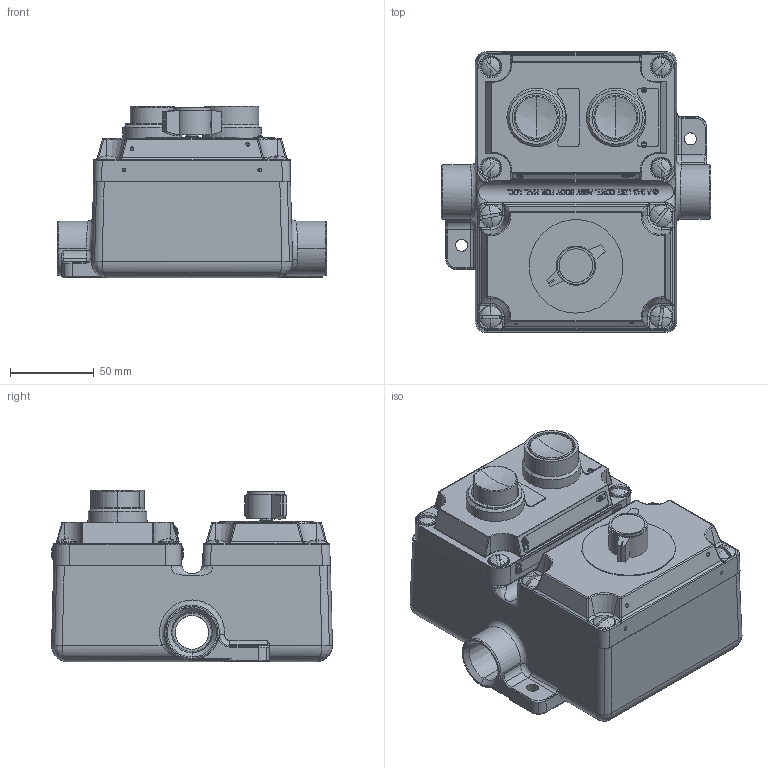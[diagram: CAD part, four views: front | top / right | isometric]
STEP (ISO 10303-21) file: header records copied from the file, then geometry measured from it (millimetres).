
FILE_DESCRIPTION (( 'STEP AP203' ), '1' );
FILE_NAME ('EPS-2XPB-PTM.10K-0.75IN-FT.STEP', '2025-06-26T16:29:09', ( '' ), ( '' ), 'SwSTEP 2.0', 'SolidWorks 2020', '' );
FILE_SCHEMA (( 'CONFIG_CONTROL_DESIGN' ));
Length unit declared in the file: inch
Products named in the file (18): 0522890B_ETO; STAR WASHER; XCS-0B4.step; 0439610B_ETO; 17790AAAB_ETO; EPS-2XPB-PTM.10K-0.75IN-FT; oval head_ai_SL-OHMS 0.25-20x0.75x0.75-N; SOCKET HEAD SCREW_ETO; 0560795B; GO133; 17792AAAB_ETO; Cover; 0682439B_ETO; SEALING LOCKNUT GASKET-; KIL_SWB-11 (2).stp; 0703640B_ETO; ANSI B18.6.3 - 6 - 32 x 1 1_4 SP HMS; 18170AAAB-N_ETO
Assembly tree (24 placements, depth 3):
  EPS-2XPB-PTM.10K-0.75IN-FT
    KIL_SWB-11 (2).stp
    XCS-0B4.step
    Cover
    GO133
      18170AAAB-N_ETO
      0560795B
      SEALING LOCKNUT GASKET-
      17790AAAB_ETO
      17792AAAB_ETO
      0682439B_ETO  x2
      0439610B_ETO
      0522890B_ETO
      0703640B_ETO
      STAR WASHER  x2
      ANSI B18.6.3 - 6 - 32 x 1 1_4 SP HMS  x2
      SOCKET HEAD SCREW_ETO  x2
    oval head_ai_SL-OHMS 0.25-20x0.75x0.75-N  x4
Bounding box: 160.68 x 167.66 x 102.27 mm (x, y, z)
Volume: 807968.6 mm3; surface area: 249613.7 mm2
Topology: 36 solids, 36 shells, 3874 faces, 10192 edges, 6551 vertices
Faces by surface type: plane 1747, bspline 1011, cylinder 769, cone 139, torus 126, sphere 82
Entity records: 144038 total; most frequent: CARTESIAN_POINT 66409, ORIENTED_EDGE 19558, EDGE_CURVE 9779, DIRECTION 9236, B_SPLINE_CURVE_WITH_KNOTS 7022, VERTEX_POINT 6322, EDGE_LOOP 4067, AXIS2_PLACEMENT_3D 3865
